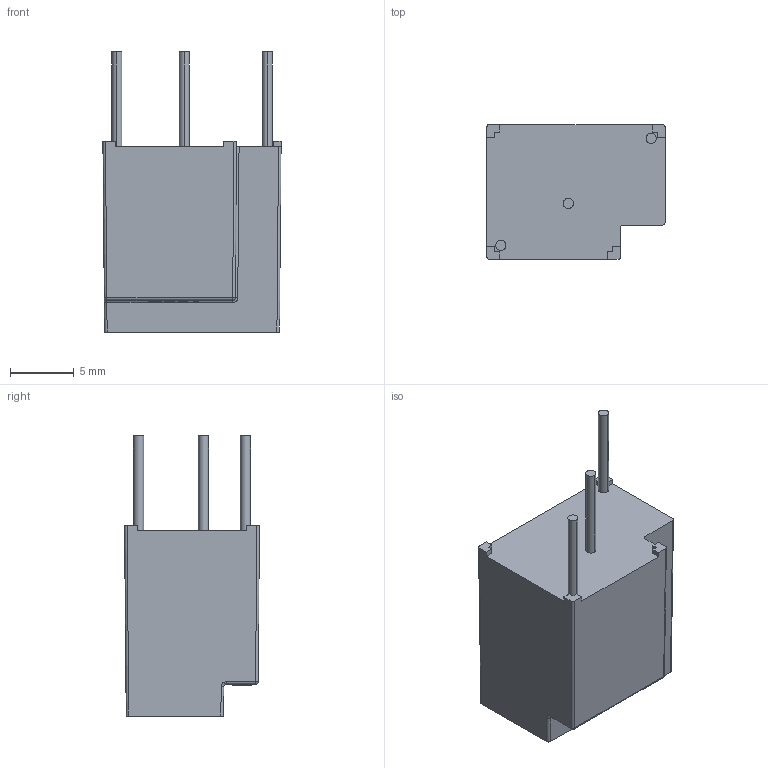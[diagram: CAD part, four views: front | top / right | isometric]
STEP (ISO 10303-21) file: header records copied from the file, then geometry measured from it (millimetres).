
FILE_DESCRIPTION((''),'2;1');
FILE_NAME('108_00','2020-07-11T09:01:53',('SET-01224'),(''),'CREO PARAMETRIC BY PTC INC, 2018050','CREO PARAMETRIC BY PTC INC, 2018050','');
FILE_SCHEMA(('CONFIG_CONTROL_DESIGN'));
Length unit declared in the file: millimetre
Products named in the file (1): 108_00
Bounding box: 14 x 10.6 x 22 mm (x, y, z)
Volume: 1923.6 mm3; surface area: 1023.6 mm2
Topology: 1 solids, 1 shells, 90 faces, 233 edges, 153 vertices
Faces by surface type: plane 59, cylinder 17, extrusion 10, sphere 2, bspline 2
Entity records: 3028 total; most frequent: CARTESIAN_POINT 850, ORIENTED_EDGE 464, DIRECTION 383, EDGE_CURVE 232, VECTOR 181, LINE 171, VERTEX_POINT 153, AXIS2_PLACEMENT_3D 101
